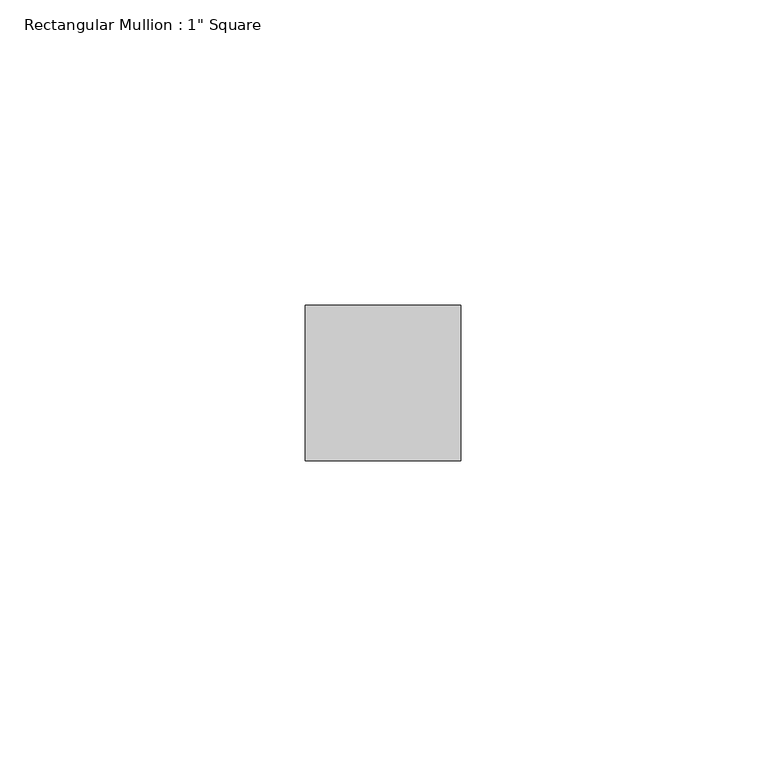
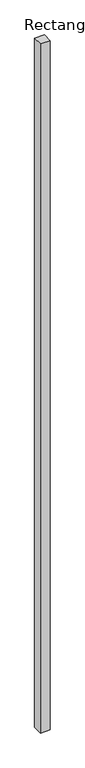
"""IFC4 building model written with IfcOpenShell, lengths in millimetres: member geometry."""

from ifc_helpers import new_model, si_unit, frame, origin, place, context, project, spatial, polyline, outline, extrude, source, transform, mapped, element, save


def member_aab8bf61(model_context):
    return source(origin(), model_context, "Body", "SweptSolid", [
        extrude(outline(polyline([(12.7, 12.7), (12.7, -12.7), (-12.7, -12.7), (-12.7, 12.7), (12.7, 12.7)])), frame((0.0, 0.0, -1881.9389279), z_axis=(0.0, 0.0, 1.0), x_axis=(1.0, 0.0, 0.0)), (0.0, 0.0, 1.0), 1881.9389279),
    ])


if __name__ == "__main__":
    model = new_model("IFC4")
    model_context = context("Model", 3, world=origin())
    ifc_project = project(units=[si_unit("LENGTHUNIT", "METRE", prefix="MILLI")], contexts=[model_context])
    site = spatial("IfcSite", under=ifc_project)
    building = spatial("IfcBuilding", under=site)
    placement = place(None, origin())
    member_shape = member_aab8bf61(model_context)
    element("IfcMember", 1, ObjectType="Rectangular Mullion : 1\" Square", at=placement, inside=building, context=model_context, shape_type="MappedRepresentation", body=[
        mapped(member_shape, transform((0.0, 0.0, 0.0), x_axis=(1.0, 0.0, 0.0), y_axis=(0.0, 1.0, 0.0), z_axis=(0.0, 0.0, 1.0))),
    ])
    save(model, "model.ifc")
